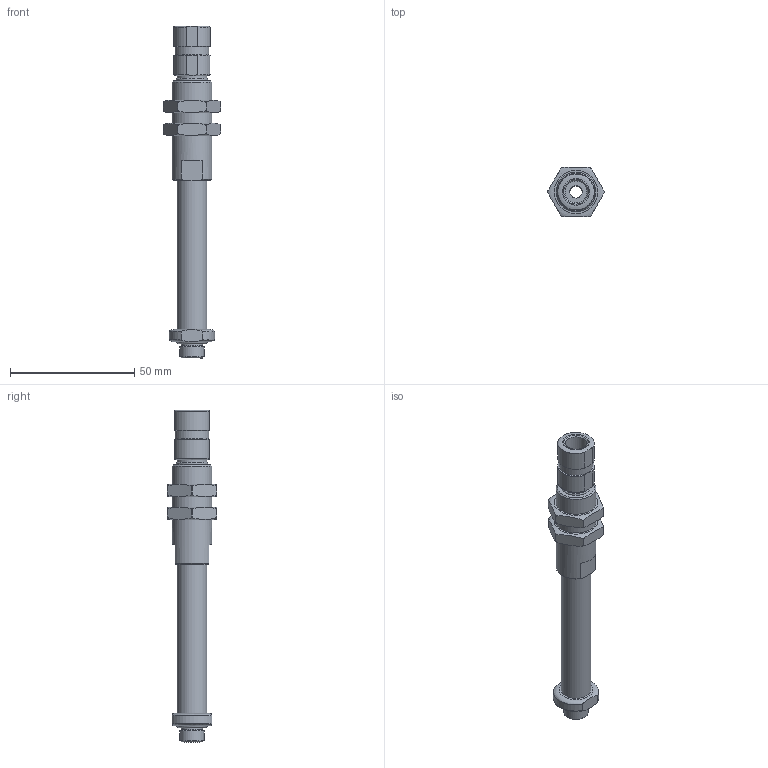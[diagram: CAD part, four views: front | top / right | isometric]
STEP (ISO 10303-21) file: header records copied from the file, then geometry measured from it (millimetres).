
FILE_DESCRIPTION( ( 'Unknown' ), '1' );
FILE_NAME( 'C:/Documents and Settings/Owner/官帕 拳搁/诀公楷遏_(Level Spring Stroke)/L1850T.stp', 'Unknown', ( 'Unknown' ), ( 'Unknown' ), 'PSStep 10.0', 'Unknown', ' ' );
FILE_SCHEMA( ( 'AUTOMOTIVE_DESIGN { 1 0 10303 214 1 1 1 1 }' ) );
Length unit declared in the file: millimetre
Products named in the file (1): 1
Bounding box: 23 x 20 x 133.5 mm (x, y, z)
Surface area: 9590.2 mm2 (no closed solid volume)
Topology: 0 solids, 90 shells, 90 faces, 378 edges, 347 vertices
Faces by surface type: plane 39, cylinder 32, cone 9, revolution 8, torus 2
Full cylindrical faces by diameter (mm): 5 x2, 8.5 x1, 8.8 x2, 9.8 x1, 10.7 x2, 11.9 x2, 13.5 x1, 16 x3
Entity records: 6168 total; most frequent: CARTESIAN_POINT 2683, DIRECTION 598, ORIENTED_EDGE 336, EDGE_CURVE 336, VERTEX_POINT 336, AXIS2_PLACEMENT_3D 251, CIRCLE 168, FACE_BOUND 138
